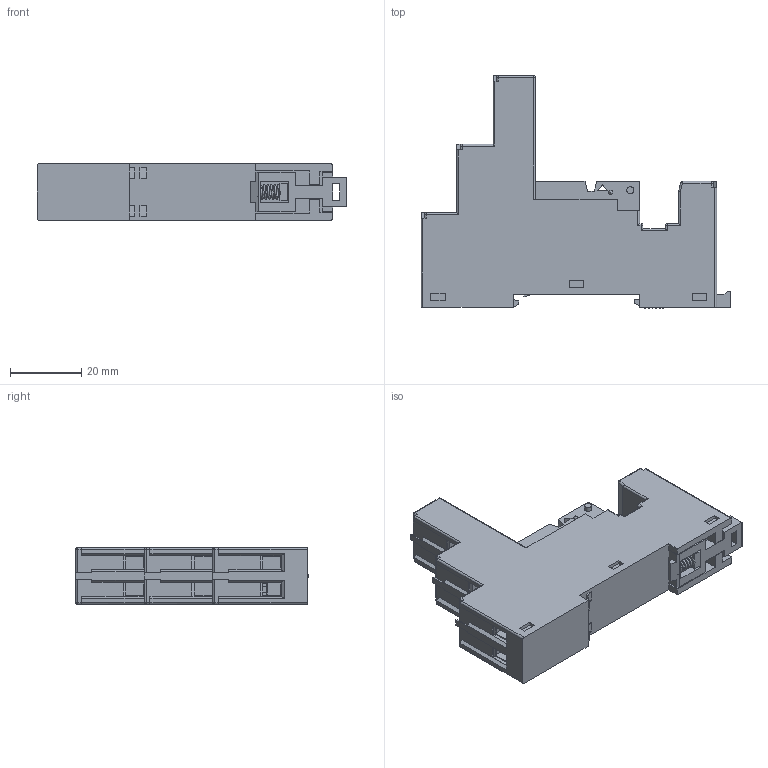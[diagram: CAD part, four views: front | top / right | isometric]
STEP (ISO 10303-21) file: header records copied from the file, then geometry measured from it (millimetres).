
FILE_DESCRIPTION(('STEP AP214'),'2;1');
FILE_NAME('9702_catalogo.stp','2010-09-09T10:23:00',(''),(''),'2007.1.106','THINKDESIGN','');
FILE_SCHEMA(('AUTOMOTIVE_DESIGN'));
Products named in the file (1): None
Bounding box: 86.85 x 65.15 x 15.8 mm (x, y, z)
Surface area: 16681.1 mm2 (no closed solid volume)
Topology: 0 solids, 0 shells, 689 faces, 3858 edges, 3840 vertices
Faces by surface type: plane 574, cylinder 89, bspline 26
Full cylindrical faces by diameter (mm): 2 x3, 3.2 x1, 4.7 x8, 5 x8
Entity records: 39187 total; most frequent: CARTESIAN_POINT 10751, DIRECTION 5050, COMPOSITE_CURVE_SEGMENT 3840, TRIMMED_CURVE 3502, VECTOR 3280, LINE 3280, AXIS2_PLACEMENT_3D 885, OUTER_BOUNDARY_CURVE 689
